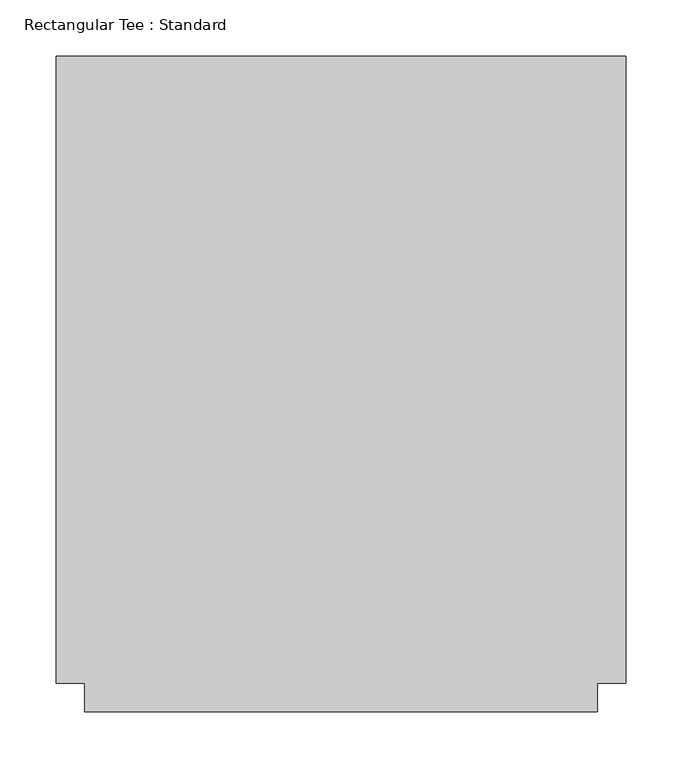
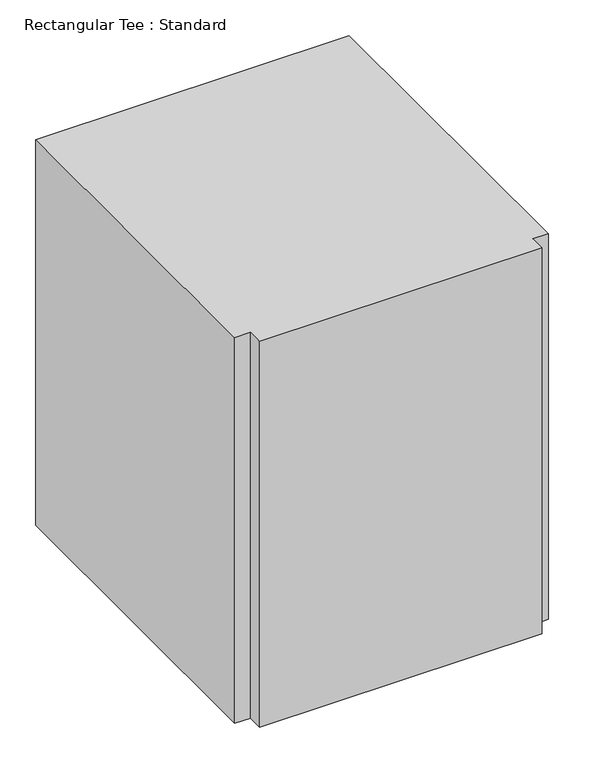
"""IFC4 building model written with IfcOpenShell, lengths in millimetres: duct fitting geometry, Rectangular Tee : Standard."""

from ifc_helpers import new_model, si_unit, frame, origin, place, context, project, spatial, polyline, outline, extrude, source, transform, mapped, element, save


def rectangular_tee_standard_dbb21c28(model_context):
    return source(origin(), model_context, "Body", "SweptSolid", [
        extrude(outline(polyline([(-254.0, -279.4), (-254.0, 279.4), (254.0, 279.4), (254.0, -279.4), (228.6, -279.4), (228.6, -304.8), (-228.6, -304.8), (-228.6, -279.4), (-254.0, -279.4)])), frame((0.0, 0.0, -330.2), z_axis=(0.0, 0.0, 1.0), x_axis=(1.0, 0.0, 0.0)), (0.0, 0.0, 1.0), 660.4),
    ])


if __name__ == "__main__":
    model = new_model("IFC4")
    model_context = context("Model", 3, world=origin())
    ifc_project = project(units=[si_unit("LENGTHUNIT", "METRE", prefix="MILLI")], contexts=[model_context])
    site = spatial("IfcSite", under=ifc_project)
    building = spatial("IfcBuilding", under=site)
    placement = place(None, origin())
    rectangular_tee_standard_shape = rectangular_tee_standard_dbb21c28(model_context)
    element("IfcDuctFitting", 1, ObjectType="Rectangular Tee : Standard", at=placement, inside=building, context=model_context, shape_type="MappedRepresentation", body=[
        mapped(rectangular_tee_standard_shape, transform((0.0, 0.0, 0.0), x_axis=(1.0, 0.0, 0.0), y_axis=(0.0, 1.0, 0.0), z_axis=(0.0, 0.0, 1.0))),
    ])
    save(model, "model.ifc")
